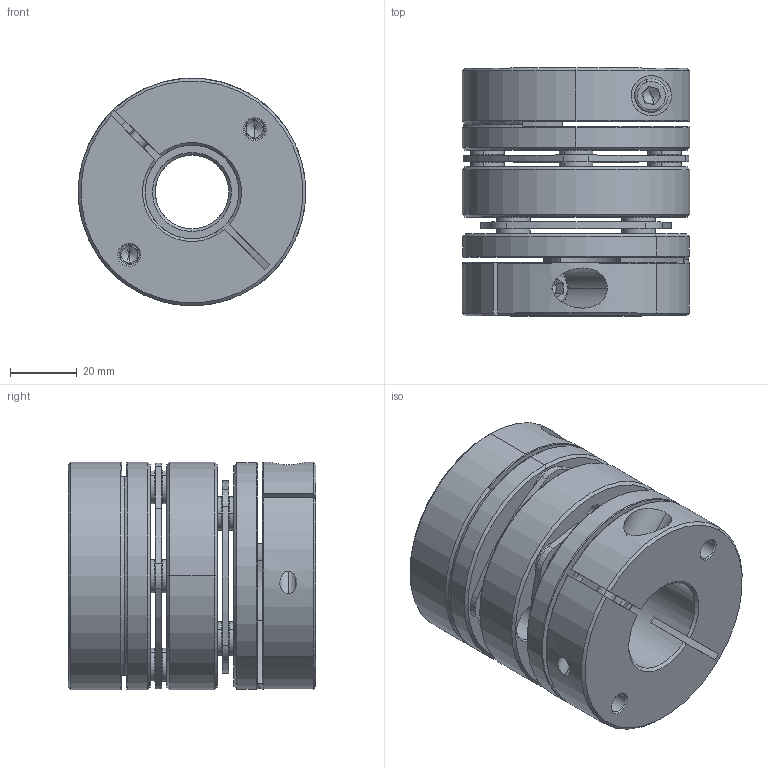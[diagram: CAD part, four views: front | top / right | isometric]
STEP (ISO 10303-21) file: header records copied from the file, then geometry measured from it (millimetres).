
FILE_DESCRIPTION (( 'STEP AP203' ), '1' );
FILE_NAME ('LD2-D68-22-28.STEP', '2021-10-26T08:39:23', ( '' ), ( '' ), 'SwSTEP 2.0', 'SolidWorks 2018', '' );
FILE_SCHEMA (( 'CONFIG_CONTROL_DESIGN' ));
Length unit declared in the file: millimetre
Products named in the file (2): LD2-D68-22-28; 錨璃102^LD2-D68
Assembly tree (1 placements, depth 2):
  LD2-D68-22-28
    錨璃102^LD2-D68
Bounding box: 68 x 74 x 68 mm (x, y, z)
Volume: 181390 mm3; surface area: 63898.1 mm2
Topology: 1 solids, 27 shells, 732 faces, 1696 edges, 1032 vertices
Faces by surface type: cylinder 256, cone 226, plane 220, torus 30
Entity records: 21398 total; most frequent: DIRECTION 3974, CARTESIAN_POINT 3912, ORIENTED_EDGE 3344, EDGE_CURVE 1672, AXIS2_PLACEMENT_3D 1614, VERTEX_POINT 1032, CIRCLE 878, EDGE_LOOP 868
